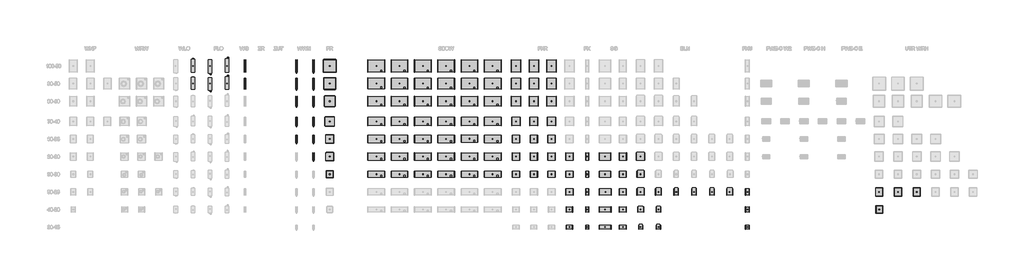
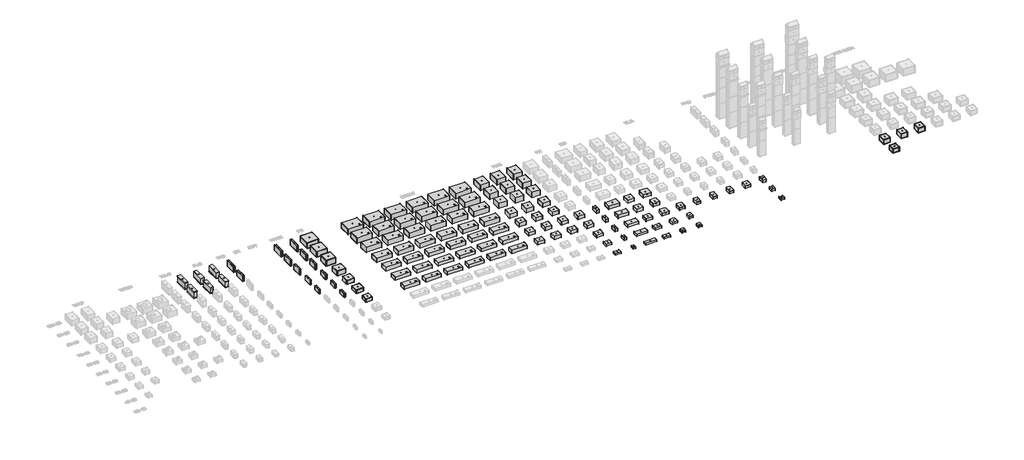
# One storey, part 2 of 9: 88 dampers, 41 proxies.
"""IFC4 building model written with IfcOpenShell, lengths in millimetres."""

from ifc_helpers import new_model, si_unit, origin, place, context, project, spatial, transform, mapped, element, save
from components import mechanical_equipment_52775468, mechanical_equipment_687dd05c, mechanical_equipment_e1f1da10, mechanical_equipment_72505fe7, mechanical_equipment_b97295ec, mechanical_equipment_a5b9c556, eln_30_15_3_45ee2382, eln_40_20_12_62cbda26, eln_40_20_6_547116ec, eln_50_25_12_b576d61d, eln_50_25_22_5_e6b17856, eln_50_25_3_0f494fae, eln_50_30_22_5_5433b532, eln_60_30_30_34ca2f9a, pr_100_50_d5668ea5, pr_50_30_9a198d9c, pr_60_30_fce1e4e2, pr_60_35_5a58c514, pr_70_40_7cd3e959, pr_80_50_171bdde4, pr_90_50_53d76877, wlo_100_50_09f97fd3, wlo_90_50_9a9a7130, wwn_100_50_2_a8e9ff89, wwn_60_30_2_c555eadd, wwn_60_35_2_a002b3c5, wwn_70_40_2_35d09b2a, wwn_80_50_2_b14858ec, wwn_90_50_2_74f086dd, damper_3e07a3b1, damper_73c1a2b8, damper_cb683c6c, damper_4910c77a, damper_2234db04, damper_d8eb1558, damper_79e00e70, damper_4dbe8409, damper_581b1da7, damper_6524d4ae, damper_9ce763fa, damper_6f91f600, damper_7f4344f7, damper_deddc22d, damper_9494ee7d, damper_7db6d74d, damper_272f7c6b, damper_729cf8fa, damper_902c86e1, damper_4f7fa12c, damper_6eec61e3, damper_dfc493b6, damper_105bf92a, damper_05f9109e, fk_30_15_0ff2b426, fk_40_20_84f0d2ef, fk_50_25_1d13ae3f, fk_50_30_b05a340d, fk_60_30_f3dd4c19, fku_30_15_48607b87, fku_40_20_ee278247, fku_50_25_6c8950d9, sg_30_15_9fe6578c, sg_30_15_6_af9fe228, sg_40_20_bcf9c2c2, sg_40_20_6_3dc7d298, sg_50_25_c6de3e1b, sg_50_25_6_c3226699, sg_50_30_2e38eed7, sg_50_30_6_3feef5d5, sg_60_30_53cb04a9, sg_60_30_6_74d84c29, wg_100_50_6149abaa, wg_90_50_df9ed7cd

model = new_model("IFC4")

# Units and contexts
model_context = context("Model", 3, world=origin())
ifc_project = project(units=[si_unit("LENGTHUNIT", "METRE", prefix="MILLI")], contexts=[model_context])

# Site, building, storey
site = spatial("IfcSite", under=ifc_project)
building = spatial("IfcBuilding", under=site)
storey = spatial("IfcBuildingStorey", under=building, Name="KORF_Уровень 1", Elevation=0.0)

# Proxies
placement = place(None, origin())
mechanical_equipment_shape = mechanical_equipment_52775468(model_context)
element("IfcBuildingElementProxy", 1, Name="KORF_Воздухоохладитель_Фреоновый_FLO_Левый : FLO 90-50", ObjectType="KORF_Воздухоохладитель_Фреоновый_FLO_Левый : FLO 90-50", at=placement, inside=storey, context=model_context, shape_type="MappedRepresentation", body=[
    mapped(mechanical_equipment_shape, transform((2142.0346858, -7120.5318822, 0.0), x_axis=(1.0, 0.0, 0.0), y_axis=(0.0, 1.0, 0.0), z_axis=(0.0, 0.0, 1.0))),
])
mechanical_equipment_2_shape = mechanical_equipment_687dd05c(model_context)
element("IfcBuildingElementProxy", 2, Name="KORF_Воздухоохладитель_Фреоновый_FLO_Левый : FLO 100-50", ObjectType="KORF_Воздухоохладитель_Фреоновый_FLO_Левый : FLO 100-50", at=placement, inside=storey, context=model_context, shape_type="MappedRepresentation", body=[
    mapped(mechanical_equipment_2_shape, transform((2142.0346858, -5606.5510747, 0.0), x_axis=(1.0, 0.0, 0.0), y_axis=(0.0, 1.0, 0.0), z_axis=(0.0, 0.0, 1.0))),
])
mechanical_equipment_3_shape = mechanical_equipment_e1f1da10(model_context)
element("IfcBuildingElementProxy", 3, Name="KORF_Воздухоохладитель_Фреоновый_FLO_Правый : FLO 90-50", ObjectType="KORF_Воздухоохладитель_Фреоновый_FLO_Правый : FLO 90-50", at=placement, inside=storey, context=model_context, shape_type="MappedRepresentation", body=[
    mapped(mechanical_equipment_3_shape, transform((3611.0870707, -7120.5318822, 0.0), x_axis=(1.0, 0.0, 0.0), y_axis=(0.0, 1.0, 0.0), z_axis=(0.0, 0.0, 1.0))),
])
mechanical_equipment_4_shape = mechanical_equipment_72505fe7(model_context)
element("IfcBuildingElementProxy", 4, Name="KORF_Воздухоохладитель_Фреоновый_FLO_Правый : FLO 100-50", ObjectType="KORF_Воздухоохладитель_Фреоновый_FLO_Правый : FLO 100-50", at=placement, inside=storey, context=model_context, shape_type="MappedRepresentation", body=[
    mapped(mechanical_equipment_4_shape, transform((3611.0870707, -5606.5510747, 0.0), x_axis=(1.0, 0.0, 0.0), y_axis=(0.0, 1.0, 0.0), z_axis=(0.0, 0.0, 1.0))),
])
mechanical_equipment_5_shape = mechanical_equipment_b97295ec(model_context)
element("IfcBuildingElementProxy", 5, Name="KORF_Вентилятор_UTR_WRH : UTR 40-20 WRH 22.4E", ObjectType="KORF_Вентилятор_UTR_WRH : UTR 40-20 WRH 22.4E", at=placement, inside=storey, context=model_context, shape_type="MappedRepresentation", body=[
    mapped(mechanical_equipment_5_shape, transform((59520.2696811, -17934.5318822, 0.0), x_axis=(1.0, 0.0, 0.0), y_axis=(0.0, 1.0, 0.0), z_axis=(0.0, 0.0, 1.0))),
])
element("IfcBuildingElementProxy", 6, Name="KORF_Вентилятор_UTR_WRH : UTR 40-20 WRH 22.4D", ObjectType="KORF_Вентилятор_UTR_WRH : UTR 40-20 WRH 22.4D", at=placement, inside=storey, context=model_context, shape_type="MappedRepresentation", body=[
    mapped(mechanical_equipment_5_shape, transform((59480.154522, -17934.5318822, 0.0), x_axis=(1.0, 0.0, 0.0), y_axis=(0.0, 1.0, 0.0), z_axis=(0.0, 0.0, 1.0))),
])
mechanical_equipment_6_shape = mechanical_equipment_a5b9c556(model_context)
element("IfcBuildingElementProxy", 7, Name="KORF_Вентилятор_UTR_WRH : UTR 50-25 WRH 22.4E", ObjectType="KORF_Вентилятор_UTR_WRH : UTR 50-25 WRH 22.4E", at=placement, inside=storey, context=model_context, shape_type="MappedRepresentation", body=[
    mapped(mechanical_equipment_6_shape, transform((61081.4621015, -16420.5510747, 0.0), x_axis=(1.0, 0.0, 0.0), y_axis=(0.0, 1.0, 0.0), z_axis=(0.0, 0.0, 1.0))),
])
element("IfcBuildingElementProxy", 8, Name="KORF_Вентилятор_UTR_WRH : UTR 50-25 WRH 22.4D", ObjectType="KORF_Вентилятор_UTR_WRH : UTR 50-25 WRH 22.4D", at=placement, inside=storey, context=model_context, shape_type="MappedRepresentation", body=[
    mapped(mechanical_equipment_6_shape, transform((59465.154522, -16420.5510747, 0.0), x_axis=(1.0, 0.0, 0.0), y_axis=(0.0, 1.0, 0.0), z_axis=(0.0, 0.0, 1.0))),
])
element("IfcBuildingElementProxy", 9, Name="KORF_Вентилятор_UTR_WRH : UTR 50-25 WRH 22.6D", ObjectType="KORF_Вентилятор_UTR_WRH : UTR 50-25 WRH 22.6D", at=placement, inside=storey, context=model_context, shape_type="MappedRepresentation", body=[
    mapped(mechanical_equipment_6_shape, transform((62697.7696811, -16420.5510747, 0.0), x_axis=(1.0, 0.0, 0.0), y_axis=(0.0, 1.0, 0.0), z_axis=(0.0, 0.0, 1.0))),
])
eln_30_15_3_shape = eln_30_15_3_45ee2382(model_context)
element("IfcBuildingElementProxy", 10, Name="KORF_Нагреватель_Электрический_ELN : ELN 30-15/3", ObjectType="KORF_Нагреватель_Электрический_ELN : ELN 30-15/3", at=placement, inside=storey, context=model_context, shape_type="MappedRepresentation", body=[
    mapped(eln_30_15_3_shape, transform((40632.6559873, -19448.5126897, 0.0), x_axis=(1.0, 0.0, 0.0), y_axis=(0.0, 1.0, 0.0), z_axis=(0.0, 0.0, 1.0))),
])
element("IfcBuildingElementProxy", 11, Name="KORF_Нагреватель_Электрический_ELN : ELN 30-15/4.5", ObjectType="KORF_Нагреватель_Электрический_ELN : ELN 30-15/4.5", at=placement, inside=storey, context=model_context, shape_type="MappedRepresentation", body=[
    mapped(eln_30_15_3_shape, transform((39103.3741614, -19448.5126897, 0.0), x_axis=(1.0, 0.0, 0.0), y_axis=(0.0, 1.0, 0.0), z_axis=(0.0, 0.0, 1.0))),
])
eln_40_20_12_shape = eln_40_20_12_62cbda26(model_context)
element("IfcBuildingElementProxy", 12, Name="KORF_Нагреватель_Электрический_ELN : ELN 40-20/12", ObjectType="KORF_Нагреватель_Электрический_ELN : ELN 40-20/12", at=placement, inside=storey, context=model_context, shape_type="MappedRepresentation", body=[
    mapped(eln_40_20_12_shape, transform((39028.3741614, -17934.5318822, 0.0), x_axis=(1.0, 0.0, 0.0), y_axis=(0.0, 1.0, 0.0), z_axis=(0.0, 0.0, 1.0))),
])
eln_40_20_6_shape = eln_40_20_6_547116ec(model_context)
element("IfcBuildingElementProxy", 13, Name="KORF_Нагреватель_Электрический_ELN : ELN 40-20/6", ObjectType="KORF_Нагреватель_Электрический_ELN : ELN 40-20/6", at=placement, inside=storey, context=model_context, shape_type="MappedRepresentation", body=[
    mapped(eln_40_20_6_shape, transform((40617.6559873, -17934.5318822, 0.0), x_axis=(1.0, 0.0, 0.0), y_axis=(0.0, 1.0, 0.0), z_axis=(0.0, 0.0, 1.0))),
])
eln_50_25_12_shape = eln_50_25_12_b576d61d(model_context)
element("IfcBuildingElementProxy", 14, Name="KORF_Нагреватель_Электрический_ELN : ELN 50-25/12", ObjectType="KORF_Нагреватель_Электрический_ELN : ELN 50-25/12", at=placement, inside=storey, context=model_context, shape_type="MappedRepresentation", body=[
    mapped(eln_50_25_12_shape, transform((46674.7832907, -16420.5510747, 0.0), x_axis=(1.0, 0.0, 0.0), y_axis=(0.0, 1.0, 0.0), z_axis=(0.0, 0.0, 1.0))),
])
element("IfcBuildingElementProxy", 15, Name="KORF_Нагреватель_Электрический_ELN : ELN 50-25/15", ObjectType="KORF_Нагреватель_Электрический_ELN : ELN 50-25/15", at=placement, inside=storey, context=model_context, shape_type="MappedRepresentation", body=[
    mapped(eln_50_25_12_shape, transform((40557.6559873, -16420.5510747, 0.0), x_axis=(1.0, 0.0, 0.0), y_axis=(0.0, 1.0, 0.0), z_axis=(0.0, 0.0, 1.0))),
])
eln_50_25_22_5_shape = eln_50_25_22_5_e6b17856(model_context)
element("IfcBuildingElementProxy", 16, Name="KORF_Нагреватель_Электрический_ELN : ELN 50-25/22.5", ObjectType="KORF_Нагреватель_Электрический_ELN : ELN 50-25/22.5", at=placement, inside=storey, context=model_context, shape_type="MappedRepresentation", body=[
    mapped(eln_50_25_22_5_shape, transform((38968.3741614, -16420.5510747, 0.0), x_axis=(1.0, 0.0, 0.0), y_axis=(0.0, 1.0, 0.0), z_axis=(0.0, 0.0, 1.0))),
])
eln_50_25_3_shape = eln_50_25_3_0f494fae(model_context)
element("IfcBuildingElementProxy", 17, Name="KORF_Нагреватель_Электрический_ELN : ELN 50-25/3", ObjectType="KORF_Нагреватель_Электрический_ELN : ELN 50-25/3", at=placement, inside=storey, context=model_context, shape_type="MappedRepresentation", body=[
    mapped(eln_50_25_3_shape, transform((43676.219639, -16420.5510747, 0.0), x_axis=(1.0, 0.0, 0.0), y_axis=(0.0, 1.0, 0.0), z_axis=(0.0, 0.0, 1.0))),
])
element("IfcBuildingElementProxy", 18, Name="KORF_Нагреватель_Электрический_ELN : ELN 50-25/4.5", ObjectType="KORF_Нагреватель_Электрический_ELN : ELN 50-25/4.5", at=placement, inside=storey, context=model_context, shape_type="MappedRepresentation", body=[
    mapped(eln_50_25_3_shape, transform((45205.5014648, -16420.5510747, 0.0), x_axis=(1.0, 0.0, 0.0), y_axis=(0.0, 1.0, 0.0), z_axis=(0.0, 0.0, 1.0))),
])
element("IfcBuildingElementProxy", 19, Name="KORF_Нагреватель_Электрический_ELN : ELN 50-25/7.5", ObjectType="KORF_Нагреватель_Электрический_ELN : ELN 50-25/7.5", at=placement, inside=storey, context=model_context, shape_type="MappedRepresentation", body=[
    mapped(eln_50_25_3_shape, transform((42146.9378131, -16420.5510747, 0.0), x_axis=(1.0, 0.0, 0.0), y_axis=(0.0, 1.0, 0.0), z_axis=(0.0, 0.0, 1.0))),
])
eln_50_30_22_5_shape = eln_50_30_22_5_5433b532(model_context)
element("IfcBuildingElementProxy", 20, Name="KORF_Нагреватель_Электрический_ELN : ELN 50-30/22.5", ObjectType="KORF_Нагреватель_Электрический_ELN : ELN 50-30/22.5", at=placement, inside=storey, context=model_context, shape_type="MappedRepresentation", body=[
    mapped(eln_50_30_22_5_shape, transform((38968.3741614, -14906.5702672, 0.0), x_axis=(1.0, 0.0, 0.0), y_axis=(0.0, 1.0, 0.0), z_axis=(0.0, 0.0, 1.0))),
])
eln_60_30_30_shape = eln_60_30_30_34ca2f9a(model_context)
element("IfcBuildingElementProxy", 21, Name="KORF_Нагреватель_Электрический_ELN : ELN 60-30/30", ObjectType="KORF_Нагреватель_Электрический_ELN : ELN 60-30/30", at=placement, inside=storey, context=model_context, shape_type="MappedRepresentation", body=[
    mapped(eln_60_30_30_shape, transform((38908.3741614, -13392.5894597, 0.0), x_axis=(1.0, 0.0, 0.0), y_axis=(0.0, 1.0, 0.0), z_axis=(0.0, 0.0, 1.0))),
])
pr_100_50_shape = pr_100_50_d5668ea5(model_context)
element("IfcBuildingElementProxy", 22, Name="KORF_Рекуператор_Пластинчатый_PR : PR 100-50", ObjectType="KORF_Рекуператор_Пластинчатый_PR : PR 100-50", at=placement, inside=storey, context=model_context, shape_type="MappedRepresentation", body=[
    mapped(pr_100_50_shape, transform((12020.4013805, -5606.5510747, 0.0), x_axis=(1.0, 0.0, 0.0), y_axis=(0.0, 1.0, 0.0), z_axis=(0.0, 0.0, 1.0))),
])
pr_50_30_shape = pr_50_30_9a198d9c(model_context)
element("IfcBuildingElementProxy", 23, Name="KORF_Рекуператор_Пластинчатый_PR : PR 50-30", ObjectType="KORF_Рекуператор_Пластинчатый_PR : PR 50-30", at=placement, inside=storey, context=model_context, shape_type="MappedRepresentation", body=[
    mapped(pr_50_30_shape, transform((12270.4013805, -14906.5702672, 0.0), x_axis=(1.0, 0.0, 0.0), y_axis=(0.0, 1.0, 0.0), z_axis=(0.0, 0.0, 1.0))),
])
pr_60_30_shape = pr_60_30_fce1e4e2(model_context)
element("IfcBuildingElementProxy", 24, Name="KORF_Рекуператор_Пластинчатый_PR : PR 60-30", ObjectType="KORF_Рекуператор_Пластинчатый_PR : PR 60-30", at=placement, inside=storey, context=model_context, shape_type="MappedRepresentation", body=[
    mapped(pr_60_30_shape, transform((12220.4013805, -13392.5894597, 0.0), x_axis=(1.0, 0.0, 0.0), y_axis=(0.0, 1.0, 0.0), z_axis=(0.0, 0.0, 1.0))),
])
pr_60_35_shape = pr_60_35_5a58c514(model_context)
element("IfcBuildingElementProxy", 25, Name="KORF_Рекуператор_Пластинчатый_PR : PR 60-35", ObjectType="KORF_Рекуператор_Пластинчатый_PR : PR 60-35", at=placement, inside=storey, context=model_context, shape_type="MappedRepresentation", body=[
    mapped(pr_60_35_shape, transform((12220.4013805, -11878.6086522, 0.0), x_axis=(1.0, 0.0, 0.0), y_axis=(0.0, 1.0, 0.0), z_axis=(0.0, 0.0, 1.0))),
])
pr_70_40_shape = pr_70_40_7cd3e959(model_context)
element("IfcBuildingElementProxy", 26, Name="KORF_Рекуператор_Пластинчатый_PR : PR 70-40", ObjectType="KORF_Рекуператор_Пластинчатый_PR : PR 70-40", at=placement, inside=storey, context=model_context, shape_type="MappedRepresentation", body=[
    mapped(pr_70_40_shape, transform((12170.4013805, -10364.6278447, 0.0), x_axis=(1.0, 0.0, 0.0), y_axis=(0.0, 1.0, 0.0), z_axis=(0.0, 0.0, 1.0))),
])
pr_80_50_shape = pr_80_50_171bdde4(model_context)
element("IfcBuildingElementProxy", 27, Name="KORF_Рекуператор_Пластинчатый_PR : PR 80-50", ObjectType="KORF_Рекуператор_Пластинчатый_PR : PR 80-50", at=placement, inside=storey, context=model_context, shape_type="MappedRepresentation", body=[
    mapped(pr_80_50_shape, transform((12120.4013805, -8634.5126897, 0.0), x_axis=(1.0, 0.0, 0.0), y_axis=(0.0, 1.0, 0.0), z_axis=(0.0, 0.0, 1.0))),
])
pr_90_50_shape = pr_90_50_53d76877(model_context)
element("IfcBuildingElementProxy", 28, Name="KORF_Рекуператор_Пластинчатый_PR : PR 90-50", ObjectType="KORF_Рекуператор_Пластинчатый_PR : PR 90-50", at=placement, inside=storey, context=model_context, shape_type="MappedRepresentation", body=[
    mapped(pr_90_50_shape, transform((12070.4013805, -7120.5318822, 0.0), x_axis=(1.0, 0.0, 0.0), y_axis=(0.0, 1.0, 0.0), z_axis=(0.0, 0.0, 1.0))),
])
wlo_100_50_shape = wlo_100_50_09f97fd3(model_context)
element("IfcBuildingElementProxy", 29, Name="KORF_Воздухоохладитель_Водяной_WLO_Правый : WLO 100-50", ObjectType="KORF_Воздухоохладитель_Водяной_WLO_Правый : WLO 100-50", at=placement, inside=storey, context=model_context, shape_type="MappedRepresentation", body=[
    mapped(wlo_100_50_shape, transform((667.9823008, -5606.5510747, 0.0), x_axis=(1.0, 0.0, 0.0), y_axis=(0.0, 1.0, 0.0), z_axis=(0.0, 0.0, 1.0))),
])
wlo_90_50_shape = wlo_90_50_9a9a7130(model_context)
element("IfcBuildingElementProxy", 30, Name="KORF_Воздухоохладитель_Водяной_WLO_Правый : WLO 90-50", ObjectType="KORF_Воздухоохладитель_Водяной_WLO_Правый : WLO 90-50", at=placement, inside=storey, context=model_context, shape_type="MappedRepresentation", body=[
    mapped(wlo_90_50_shape, transform((667.9823008, -7120.5318822, 0.0), x_axis=(1.0, 0.0, 0.0), y_axis=(0.0, 1.0, 0.0), z_axis=(0.0, 0.0, 1.0))),
])
wwn_100_50_2_shape = wwn_100_50_2_a8e9ff89(model_context)
element("IfcBuildingElementProxy", 31, Name="KORF_Нагреватель_Водяной_WWN : WWN 100-50/2", ObjectType="KORF_Нагреватель_Водяной_WWN : WWN 100-50/2", at=placement, inside=storey, context=model_context, shape_type="MappedRepresentation", body=[
    mapped(wwn_100_50_2_shape, transform((9640.2966106, -5606.5510747, 0.0), x_axis=(1.0, 0.0, 0.0), y_axis=(0.0, 1.0, 0.0), z_axis=(0.0, 0.0, 1.0))),
])
element("IfcBuildingElementProxy", 32, Name="KORF_Нагреватель_Водяной_WWN : WWN 100-50/3", ObjectType="KORF_Нагреватель_Водяной_WWN : WWN 100-50/3", at=placement, inside=storey, context=model_context, shape_type="MappedRepresentation", body=[
    mapped(wwn_100_50_2_shape, transform((11109.3489956, -5606.5510747, 0.0), x_axis=(1.0, 0.0, 0.0), y_axis=(0.0, 1.0, 0.0), z_axis=(0.0, 0.0, 1.0))),
])
wwn_60_30_2_shape = wwn_60_30_2_c555eadd(model_context)
element("IfcBuildingElementProxy", 33, Name="KORF_Нагреватель_Водяной_WWN : WWN 60-30/3", ObjectType="KORF_Нагреватель_Водяной_WWN : WWN 60-30/3", at=placement, inside=storey, context=model_context, shape_type="MappedRepresentation", body=[
    mapped(wwn_60_30_2_shape, transform((11109.3489956, -13392.5894597, 0.0), x_axis=(1.0, 0.0, 0.0), y_axis=(0.0, 1.0, 0.0), z_axis=(0.0, 0.0, 1.0))),
])
wwn_60_35_2_shape = wwn_60_35_2_a002b3c5(model_context)
element("IfcBuildingElementProxy", 34, Name="KORF_Нагреватель_Водяной_WWN : WWN 60-35/2", ObjectType="KORF_Нагреватель_Водяной_WWN : WWN 60-35/2", at=placement, inside=storey, context=model_context, shape_type="MappedRepresentation", body=[
    mapped(wwn_60_35_2_shape, transform((9640.2966106, -11878.6086522, 0.0), x_axis=(1.0, 0.0, 0.0), y_axis=(0.0, 1.0, 0.0), z_axis=(0.0, 0.0, 1.0))),
])
element("IfcBuildingElementProxy", 35, Name="KORF_Нагреватель_Водяной_WWN : WWN 60-35/3", ObjectType="KORF_Нагреватель_Водяной_WWN : WWN 60-35/3", at=placement, inside=storey, context=model_context, shape_type="MappedRepresentation", body=[
    mapped(wwn_60_35_2_shape, transform((11109.3489956, -11878.6086522, 0.0), x_axis=(1.0, 0.0, 0.0), y_axis=(0.0, 1.0, 0.0), z_axis=(0.0, 0.0, 1.0))),
])
wwn_70_40_2_shape = wwn_70_40_2_35d09b2a(model_context)
element("IfcBuildingElementProxy", 36, Name="KORF_Нагреватель_Водяной_WWN : WWN 70-40/2", ObjectType="KORF_Нагреватель_Водяной_WWN : WWN 70-40/2", at=placement, inside=storey, context=model_context, shape_type="MappedRepresentation", body=[
    mapped(wwn_70_40_2_shape, transform((9640.2966106, -10364.6278447, 0.0), x_axis=(1.0, 0.0, 0.0), y_axis=(0.0, 1.0, 0.0), z_axis=(0.0, 0.0, 1.0))),
])
element("IfcBuildingElementProxy", 37, Name="KORF_Нагреватель_Водяной_WWN : WWN 70-40/3", ObjectType="KORF_Нагреватель_Водяной_WWN : WWN 70-40/3", at=placement, inside=storey, context=model_context, shape_type="MappedRepresentation", body=[
    mapped(wwn_70_40_2_shape, transform((11109.3489956, -10364.6278447, 0.0), x_axis=(1.0, 0.0, 0.0), y_axis=(0.0, 1.0, 0.0), z_axis=(0.0, 0.0, 1.0))),
])
wwn_80_50_2_shape = wwn_80_50_2_b14858ec(model_context)
element("IfcBuildingElementProxy", 38, Name="KORF_Нагреватель_Водяной_WWN : WWN 80-50/2", ObjectType="KORF_Нагреватель_Водяной_WWN : WWN 80-50/2", at=placement, inside=storey, context=model_context, shape_type="MappedRepresentation", body=[
    mapped(wwn_80_50_2_shape, transform((9640.2966106, -8634.5126897, 0.0), x_axis=(1.0, 0.0, 0.0), y_axis=(0.0, 1.0, 0.0), z_axis=(0.0, 0.0, 1.0))),
])
element("IfcBuildingElementProxy", 39, Name="KORF_Нагреватель_Водяной_WWN : WWN 80-50/3", ObjectType="KORF_Нагреватель_Водяной_WWN : WWN 80-50/3", at=placement, inside=storey, context=model_context, shape_type="MappedRepresentation", body=[
    mapped(wwn_80_50_2_shape, transform((11109.3489956, -8634.5126897, 0.0), x_axis=(1.0, 0.0, 0.0), y_axis=(0.0, 1.0, 0.0), z_axis=(0.0, 0.0, 1.0))),
])
wwn_90_50_2_shape = wwn_90_50_2_74f086dd(model_context)
element("IfcBuildingElementProxy", 40, Name="KORF_Нагреватель_Водяной_WWN : WWN 90-50/2", ObjectType="KORF_Нагреватель_Водяной_WWN : WWN 90-50/2", at=placement, inside=storey, context=model_context, shape_type="MappedRepresentation", body=[
    mapped(wwn_90_50_2_shape, transform((9640.2966106, -7120.5318822, 0.0), x_axis=(1.0, 0.0, 0.0), y_axis=(0.0, 1.0, 0.0), z_axis=(0.0, 0.0, 1.0))),
])
element("IfcBuildingElementProxy", 41, Name="KORF_Нагреватель_Водяной_WWN : WWN 90-50/3", ObjectType="KORF_Нагреватель_Водяной_WWN : WWN 90-50/3", at=placement, inside=storey, context=model_context, shape_type="MappedRepresentation", body=[
    mapped(wwn_90_50_2_shape, transform((11109.3489956, -7120.5318822, 0.0), x_axis=(1.0, 0.0, 0.0), y_axis=(0.0, 1.0, 0.0), z_axis=(0.0, 0.0, 1.0))),
])

# Dampers
damper_shape = damper_3e07a3b1(model_context)
element("IfcDamper", 42, ObjectType="KORF_Секция бактерицидной обработки воздуха_SBOW : SBOW 50-30/174", at=placement, inside=storey, context=model_context, shape_type="MappedRepresentation", body=[
    mapped(damper_shape, transform((21858.1736044, -14906.5702672, 0.0), x_axis=(1.0, 0.0, 0.0), y_axis=(0.0, 1.0, 0.0), z_axis=(0.0, 0.0, 1.0))),
])
element("IfcDamper", 43, ObjectType="KORF_Секция бактерицидной обработки воздуха_SBOW : SBOW 50-30/111", at=placement, inside=storey, context=model_context, shape_type="MappedRepresentation", body=[
    mapped(damper_shape, transform((19858.4013805, -14906.5702672, 0.0), x_axis=(1.0, 0.0, 0.0), y_axis=(0.0, 1.0, 0.0), z_axis=(0.0, 0.0, 1.0))),
])
element("IfcDamper", 44, ObjectType="KORF_Секция бактерицидной обработки воздуха_SBOW : SBOW 50-30/79", at=placement, inside=storey, context=model_context, shape_type="MappedRepresentation", body=[
    mapped(damper_shape, transform((17858.4013805, -14906.5702672, 0.0), x_axis=(1.0, 0.0, 0.0), y_axis=(0.0, 1.0, 0.0), z_axis=(0.0, 0.0, 1.0))),
])
element("IfcDamper", 45, ObjectType="KORF_Секция бактерицидной обработки воздуха_SBOW : SBOW 50-30/47", at=placement, inside=storey, context=model_context, shape_type="MappedRepresentation", body=[
    mapped(damper_shape, transform((15858.4013805, -14906.5702672, 0.0), x_axis=(1.0, 0.0, 0.0), y_axis=(0.0, 1.0, 0.0), z_axis=(0.0, 0.0, 1.0))),
])
damper_2_shape = damper_73c1a2b8(model_context)
element("IfcDamper", 46, ObjectType="KORF_Секция бактерицидной обработки воздуха_SBOW : SBOW 60-30/190", at=placement, inside=storey, context=model_context, shape_type="MappedRepresentation", body=[
    mapped(damper_2_shape, transform((21858.1736044, -13392.5894597, 0.0), x_axis=(1.0, 0.0, 0.0), y_axis=(0.0, 1.0, 0.0), z_axis=(0.0, 0.0, 1.0))),
])
element("IfcDamper", 47, ObjectType="KORF_Секция бактерицидной обработки воздуха_SBOW : SBOW 60-30/127", at=placement, inside=storey, context=model_context, shape_type="MappedRepresentation", body=[
    mapped(damper_2_shape, transform((19858.4013805, -13392.5894597, 0.0), x_axis=(1.0, 0.0, 0.0), y_axis=(0.0, 1.0, 0.0), z_axis=(0.0, 0.0, 1.0))),
])
element("IfcDamper", 48, ObjectType="KORF_Секция бактерицидной обработки воздуха_SBOW : SBOW 60-30/79", at=placement, inside=storey, context=model_context, shape_type="MappedRepresentation", body=[
    mapped(damper_2_shape, transform((17858.4013805, -13392.5894597, 0.0), x_axis=(1.0, 0.0, 0.0), y_axis=(0.0, 1.0, 0.0), z_axis=(0.0, 0.0, 1.0))),
])
element("IfcDamper", 49, ObjectType="KORF_Секция бактерицидной обработки воздуха_SBOW : SBOW 60-30/47", at=placement, inside=storey, context=model_context, shape_type="MappedRepresentation", body=[
    mapped(damper_2_shape, transform((15858.4013805, -13392.5894597, 0.0), x_axis=(1.0, 0.0, 0.0), y_axis=(0.0, 1.0, 0.0), z_axis=(0.0, 0.0, 1.0))),
])
damper_3_shape = damper_cb683c6c(model_context)
element("IfcDamper", 50, ObjectType="KORF_Секция бактерицидной обработки воздуха_SBOW : SBOW 60-35/222", at=placement, inside=storey, context=model_context, shape_type="MappedRepresentation", body=[
    mapped(damper_3_shape, transform((21858.1736044, -11878.6086522, 0.0), x_axis=(1.0, 0.0, 0.0), y_axis=(0.0, 1.0, 0.0), z_axis=(0.0, 0.0, 1.0))),
])
element("IfcDamper", 51, ObjectType="KORF_Секция бактерицидной обработки воздуха_SBOW : SBOW 60-35/143", at=placement, inside=storey, context=model_context, shape_type="MappedRepresentation", body=[
    mapped(damper_3_shape, transform((19858.4013805, -11878.6086522, 0.0), x_axis=(1.0, 0.0, 0.0), y_axis=(0.0, 1.0, 0.0), z_axis=(0.0, 0.0, 1.0))),
])
element("IfcDamper", 52, ObjectType="KORF_Секция бактерицидной обработки воздуха_SBOW : SBOW 60-35/95", at=placement, inside=storey, context=model_context, shape_type="MappedRepresentation", body=[
    mapped(damper_3_shape, transform((17858.4013805, -11878.6086522, 0.0), x_axis=(1.0, 0.0, 0.0), y_axis=(0.0, 1.0, 0.0), z_axis=(0.0, 0.0, 1.0))),
])
element("IfcDamper", 53, ObjectType="KORF_Секция бактерицидной обработки воздуха_SBOW : SBOW 60-35/63", at=placement, inside=storey, context=model_context, shape_type="MappedRepresentation", body=[
    mapped(damper_3_shape, transform((15858.4013805, -11878.6086522, 0.0), x_axis=(1.0, 0.0, 0.0), y_axis=(0.0, 1.0, 0.0), z_axis=(0.0, 0.0, 1.0))),
])
damper_4_shape = damper_4910c77a(model_context)
element("IfcDamper", 54, ObjectType="KORF_Секция бактерицидной обработки воздуха_SBOW : SBOW 70-40/270", at=placement, inside=storey, context=model_context, shape_type="MappedRepresentation", body=[
    mapped(damper_4_shape, transform((21858.1736044, -10364.6278447, 0.0), x_axis=(1.0, 0.0, 0.0), y_axis=(0.0, 1.0, 0.0), z_axis=(0.0, 0.0, 1.0))),
])
element("IfcDamper", 55, ObjectType="KORF_Секция бактерицидной обработки воздуха_SBOW : SBOW 70-40/174", at=placement, inside=storey, context=model_context, shape_type="MappedRepresentation", body=[
    mapped(damper_4_shape, transform((19858.4013805, -10364.6278447, 0.0), x_axis=(1.0, 0.0, 0.0), y_axis=(0.0, 1.0, 0.0), z_axis=(0.0, 0.0, 1.0))),
])
element("IfcDamper", 56, ObjectType="KORF_Секция бактерицидной обработки воздуха_SBOW : SBOW 70-40/111", at=placement, inside=storey, context=model_context, shape_type="MappedRepresentation", body=[
    mapped(damper_4_shape, transform((17858.4013805, -10364.6278447, 0.0), x_axis=(1.0, 0.0, 0.0), y_axis=(0.0, 1.0, 0.0), z_axis=(0.0, 0.0, 1.0))),
])
element("IfcDamper", 57, ObjectType="KORF_Секция бактерицидной обработки воздуха_SBOW : SBOW 70-40/63", at=placement, inside=storey, context=model_context, shape_type="MappedRepresentation", body=[
    mapped(damper_4_shape, transform((15858.4013805, -10364.6278447, 0.0), x_axis=(1.0, 0.0, 0.0), y_axis=(0.0, 1.0, 0.0), z_axis=(0.0, 0.0, 1.0))),
])
damper_5_shape = damper_2234db04(model_context)
element("IfcDamper", 58, ObjectType="KORF_Секция бактерицидной обработки воздуха_SBOW : SBOW 80-50/302", at=placement, inside=storey, context=model_context, shape_type="MappedRepresentation", body=[
    mapped(damper_5_shape, transform((21858.1736044, -8634.5126897, 0.0), x_axis=(1.0, 0.0, 0.0), y_axis=(0.0, 1.0, 0.0), z_axis=(0.0, 0.0, 1.0))),
])
element("IfcDamper", 59, ObjectType="KORF_Секция бактерицидной обработки воздуха_SBOW : SBOW 80-50/206", at=placement, inside=storey, context=model_context, shape_type="MappedRepresentation", body=[
    mapped(damper_5_shape, transform((19858.4013805, -8634.5126897, 0.0), x_axis=(1.0, 0.0, 0.0), y_axis=(0.0, 1.0, 0.0), z_axis=(0.0, 0.0, 1.0))),
])
element("IfcDamper", 60, ObjectType="KORF_Секция бактерицидной обработки воздуха_SBOW : SBOW 80-50/127", at=placement, inside=storey, context=model_context, shape_type="MappedRepresentation", body=[
    mapped(damper_5_shape, transform((17858.4013805, -8634.5126897, 0.0), x_axis=(1.0, 0.0, 0.0), y_axis=(0.0, 1.0, 0.0), z_axis=(0.0, 0.0, 1.0))),
])
element("IfcDamper", 61, ObjectType="KORF_Секция бактерицидной обработки воздуха_SBOW : SBOW 80-50/79", at=placement, inside=storey, context=model_context, shape_type="MappedRepresentation", body=[
    mapped(damper_5_shape, transform((15858.4013805, -8634.5126897, 0.0), x_axis=(1.0, 0.0, 0.0), y_axis=(0.0, 1.0, 0.0), z_axis=(0.0, 0.0, 1.0))),
])
damper_6_shape = damper_d8eb1558(model_context)
element("IfcDamper", 62, ObjectType="KORF_Секция бактерицидной обработки воздуха_SBOW : SBOW 90-50/365", at=placement, inside=storey, context=model_context, shape_type="MappedRepresentation", body=[
    mapped(damper_6_shape, transform((21858.1736044, -7120.5318822, 0.0), x_axis=(1.0, 0.0, 0.0), y_axis=(0.0, 1.0, 0.0), z_axis=(0.0, 0.0, 1.0))),
])
element("IfcDamper", 63, ObjectType="KORF_Секция бактерицидной обработки воздуха_SBOW : SBOW 90-50/238", at=placement, inside=storey, context=model_context, shape_type="MappedRepresentation", body=[
    mapped(damper_6_shape, transform((19858.4013805, -7120.5318822, 0.0), x_axis=(1.0, 0.0, 0.0), y_axis=(0.0, 1.0, 0.0), z_axis=(0.0, 0.0, 1.0))),
])
element("IfcDamper", 64, ObjectType="KORF_Секция бактерицидной обработки воздуха_SBOW : SBOW 90-50/159", at=placement, inside=storey, context=model_context, shape_type="MappedRepresentation", body=[
    mapped(damper_6_shape, transform((17858.4013805, -7120.5318822, 0.0), x_axis=(1.0, 0.0, 0.0), y_axis=(0.0, 1.0, 0.0), z_axis=(0.0, 0.0, 1.0))),
])
element("IfcDamper", 65, ObjectType="KORF_Секция бактерицидной обработки воздуха_SBOW : SBOW 90-50/95", at=placement, inside=storey, context=model_context, shape_type="MappedRepresentation", body=[
    mapped(damper_6_shape, transform((15858.4013805, -7095.5318822, 0.0), x_axis=(1.0, 0.0, 0.0), y_axis=(0.0, 1.0, 0.0), z_axis=(0.0, 0.0, 1.0))),
])
damper_7_shape = damper_79e00e70(model_context)
element("IfcDamper", 66, ObjectType="KORF_Секция бактерицидной обработки воздуха_SBOW : SBOW 100-50/397", at=placement, inside=storey, context=model_context, shape_type="MappedRepresentation", body=[
    mapped(damper_7_shape, transform((21858.1736044, -5606.5510747, 0.0), x_axis=(1.0, 0.0, 0.0), y_axis=(0.0, 1.0, 0.0), z_axis=(0.0, 0.0, 1.0))),
])
element("IfcDamper", 67, ObjectType="KORF_Секция бактерицидной обработки воздуха_SBOW : SBOW 100-50/270", at=placement, inside=storey, context=model_context, shape_type="MappedRepresentation", body=[
    mapped(damper_7_shape, transform((19858.4013805, -5606.5510747, 0.0), x_axis=(1.0, 0.0, 0.0), y_axis=(0.0, 1.0, 0.0), z_axis=(0.0, 0.0, 1.0))),
])
element("IfcDamper", 68, ObjectType="KORF_Секция бактерицидной обработки воздуха_SBOW : SBOW 100-50/190", at=placement, inside=storey, context=model_context, shape_type="MappedRepresentation", body=[
    mapped(damper_7_shape, transform((17858.4013805, -5606.5510747, 0.0), x_axis=(1.0, 0.0, 0.0), y_axis=(0.0, 1.0, 0.0), z_axis=(0.0, 0.0, 1.0))),
])
element("IfcDamper", 69, ObjectType="KORF_Секция бактерицидной обработки воздуха_SBOW : SBOW 100-50/111", at=placement, inside=storey, context=model_context, shape_type="MappedRepresentation", body=[
    mapped(damper_7_shape, transform((15858.4013805, -5606.5510747, 0.0), x_axis=(1.0, 0.0, 0.0), y_axis=(0.0, 1.0, 0.0), z_axis=(0.0, 0.0, 1.0))),
])
element("IfcDamper", 70, ObjectType="KORF_Секция бактерицидной обработки воздуха_SBOW : SBOW 50-30/79 (36)", at=placement, inside=storey, context=model_context, shape_type="MappedRepresentation", body=[
    mapped(damper_shape, transform((25858.4013805, -14906.5702672, 0.0), x_axis=(1.0, 0.0, 0.0), y_axis=(0.0, 1.0, 0.0), z_axis=(0.0, 0.0, 1.0))),
])
element("IfcDamper", 71, ObjectType="KORF_Секция бактерицидной обработки воздуха_SBOW : SBOW 50-30/47 (36)", at=placement, inside=storey, context=model_context, shape_type="MappedRepresentation", body=[
    mapped(damper_shape, transform((23858.4013805, -14906.5702672, 0.0), x_axis=(1.0, 0.0, 0.0), y_axis=(0.0, 1.0, 0.0), z_axis=(0.0, 0.0, 1.0))),
])
element("IfcDamper", 72, ObjectType="KORF_Секция бактерицидной обработки воздуха_SBOW : SBOW 60-30/79 (36)", at=placement, inside=storey, context=model_context, shape_type="MappedRepresentation", body=[
    mapped(damper_2_shape, transform((25858.4013805, -13392.5894597, 0.0), x_axis=(1.0, 0.0, 0.0), y_axis=(0.0, 1.0, 0.0), z_axis=(0.0, 0.0, 1.0))),
])
element("IfcDamper", 73, ObjectType="KORF_Секция бактерицидной обработки воздуха_SBOW : SBOW 60-30/47 (36)", at=placement, inside=storey, context=model_context, shape_type="MappedRepresentation", body=[
    mapped(damper_2_shape, transform((23858.4013805, -13392.5894597, 0.0), x_axis=(1.0, 0.0, 0.0), y_axis=(0.0, 1.0, 0.0), z_axis=(0.0, 0.0, 1.0))),
])
element("IfcDamper", 74, ObjectType="KORF_Секция бактерицидной обработки воздуха_SBOW : SBOW 60-35/95 (36)", at=placement, inside=storey, context=model_context, shape_type="MappedRepresentation", body=[
    mapped(damper_3_shape, transform((25858.4013805, -11878.6086522, 0.0), x_axis=(1.0, 0.0, 0.0), y_axis=(0.0, 1.0, 0.0), z_axis=(0.0, 0.0, 1.0))),
])
element("IfcDamper", 75, ObjectType="KORF_Секция бактерицидной обработки воздуха_SBOW : SBOW 60-35/63 (36)", at=placement, inside=storey, context=model_context, shape_type="MappedRepresentation", body=[
    mapped(damper_3_shape, transform((23858.4013805, -11853.6086522, 0.0), x_axis=(1.0, 0.0, 0.0), y_axis=(0.0, 1.0, 0.0), z_axis=(0.0, 0.0, 1.0))),
])
element("IfcDamper", 76, ObjectType="KORF_Секция бактерицидной обработки воздуха_SBOW : SBOW 70-40/111 (36)", at=placement, inside=storey, context=model_context, shape_type="MappedRepresentation", body=[
    mapped(damper_4_shape, transform((25858.4013805, -10364.6278447, 0.0), x_axis=(1.0, 0.0, 0.0), y_axis=(0.0, 1.0, 0.0), z_axis=(0.0, 0.0, 1.0))),
])
element("IfcDamper", 77, ObjectType="KORF_Секция бактерицидной обработки воздуха_SBOW : SBOW 70-40/63 (36)", at=placement, inside=storey, context=model_context, shape_type="MappedRepresentation", body=[
    mapped(damper_4_shape, transform((23858.4013805, -10364.6278447, 0.0), x_axis=(1.0, 0.0, 0.0), y_axis=(0.0, 1.0, 0.0), z_axis=(0.0, 0.0, 1.0))),
])
element("IfcDamper", 78, ObjectType="KORF_Секция бактерицидной обработки воздуха_SBOW : SBOW 80-50/127 (36)", at=placement, inside=storey, context=model_context, shape_type="MappedRepresentation", body=[
    mapped(damper_5_shape, transform((25858.4013805, -8634.5126897, 0.0), x_axis=(1.0, 0.0, 0.0), y_axis=(0.0, 1.0, 0.0), z_axis=(0.0, 0.0, 1.0))),
])
element("IfcDamper", 79, ObjectType="KORF_Секция бактерицидной обработки воздуха_SBOW : SBOW 80-50/79 (36)", at=placement, inside=storey, context=model_context, shape_type="MappedRepresentation", body=[
    mapped(damper_5_shape, transform((23858.4013805, -8634.5126897, 0.0), x_axis=(1.0, 0.0, 0.0), y_axis=(0.0, 1.0, 0.0), z_axis=(0.0, 0.0, 1.0))),
])
element("IfcDamper", 80, ObjectType="KORF_Секция бактерицидной обработки воздуха_SBOW : SBOW 90-50/159 (36)", at=placement, inside=storey, context=model_context, shape_type="MappedRepresentation", body=[
    mapped(damper_6_shape, transform((25858.4013805, -7120.5318822, 0.0), x_axis=(1.0, 0.0, 0.0), y_axis=(0.0, 1.0, 0.0), z_axis=(0.0, 0.0, 1.0))),
])
element("IfcDamper", 81, ObjectType="KORF_Секция бактерицидной обработки воздуха_SBOW : SBOW 90-50/95 (36)", at=placement, inside=storey, context=model_context, shape_type="MappedRepresentation", body=[
    mapped(damper_6_shape, transform((23858.4013805, -7120.5318822, 0.0), x_axis=(1.0, 0.0, 0.0), y_axis=(0.0, 1.0, 0.0), z_axis=(0.0, 0.0, 1.0))),
])
element("IfcDamper", 82, ObjectType="KORF_Секция бактерицидной обработки воздуха_SBOW : SBOW 100-50/190 (36)", at=placement, inside=storey, context=model_context, shape_type="MappedRepresentation", body=[
    mapped(damper_7_shape, transform((25858.4013805, -5606.5510747, 0.0), x_axis=(1.0, 0.0, 0.0), y_axis=(0.0, 1.0, 0.0), z_axis=(0.0, 0.0, 1.0))),
])
element("IfcDamper", 83, ObjectType="KORF_Секция бактерицидной обработки воздуха_SBOW : SBOW 100-50/111 (36)", at=placement, inside=storey, context=model_context, shape_type="MappedRepresentation", body=[
    mapped(damper_7_shape, transform((23858.4013805, -5606.5510747, 0.0), x_axis=(1.0, 0.0, 0.0), y_axis=(0.0, 1.0, 0.0), z_axis=(0.0, 0.0, 1.0))),
])
damper_8_shape = damper_4dbe8409(model_context)
element("IfcDamper", 84, ObjectType="KORF_Фильтр_Карманный_FKR : FKR 50-30  EU3", at=placement, inside=storey, context=model_context, shape_type="MappedRepresentation", body=[
    mapped(damper_8_shape, transform((28258.4013805, -14906.5702672, 0.0), x_axis=(1.0, 0.0, 0.0), y_axis=(0.0, 1.0, 0.0), z_axis=(0.0, 0.0, 1.0))),
])
damper_9_shape = damper_581b1da7(model_context)
element("IfcDamper", 85, ObjectType="KORF_Фильтр_Карманный_FKR : FKR 60-30  EU3", at=placement, inside=storey, context=model_context, shape_type="MappedRepresentation", body=[
    mapped(damper_9_shape, transform((28258.4013805, -13392.5894597, 0.0), x_axis=(1.0, 0.0, 0.0), y_axis=(0.0, 1.0, 0.0), z_axis=(0.0, 0.0, 1.0))),
])
damper_10_shape = damper_6524d4ae(model_context)
element("IfcDamper", 86, ObjectType="KORF_Фильтр_Карманный_FKR : FKR 60-35  EU3", at=placement, inside=storey, context=model_context, shape_type="MappedRepresentation", body=[
    mapped(damper_10_shape, transform((28258.4013805, -11878.6086522, 0.0), x_axis=(1.0, 0.0, 0.0), y_axis=(0.0, 1.0, 0.0), z_axis=(0.0, 0.0, 1.0))),
])
damper_11_shape = damper_9ce763fa(model_context)
element("IfcDamper", 87, ObjectType="KORF_Фильтр_Карманный_FKR : FKR 70-40  EU3", at=placement, inside=storey, context=model_context, shape_type="MappedRepresentation", body=[
    mapped(damper_11_shape, transform((28218.4013805, -10364.6278447, 0.0), x_axis=(1.0, 0.0, 0.0), y_axis=(0.0, 1.0, 0.0), z_axis=(0.0, 0.0, 1.0))),
])
damper_12_shape = damper_6f91f600(model_context)
element("IfcDamper", 88, ObjectType="KORF_Фильтр_Карманный_FKR : FKR 80-50  EU3", at=placement, inside=storey, context=model_context, shape_type="MappedRepresentation", body=[
    mapped(damper_12_shape, transform((28178.4013805, -8634.5126897, 0.0), x_axis=(1.0, 0.0, 0.0), y_axis=(0.0, 1.0, 0.0), z_axis=(0.0, 0.0, 1.0))),
])
damper_13_shape = damper_7f4344f7(model_context)
element("IfcDamper", 89, ObjectType="KORF_Фильтр_Карманный_FKR : FKR 90-50  EU3", at=placement, inside=storey, context=model_context, shape_type="MappedRepresentation", body=[
    mapped(damper_13_shape, transform((28168.4013805, -7120.5318822, 0.0), x_axis=(1.0, 0.0, 0.0), y_axis=(0.0, 1.0, 0.0), z_axis=(0.0, 0.0, 1.0))),
])
damper_14_shape = damper_deddc22d(model_context)
element("IfcDamper", 90, ObjectType="KORF_Фильтр_Карманный_FKR : FKR 100-50  EU3", at=placement, inside=storey, context=model_context, shape_type="MappedRepresentation", body=[
    mapped(damper_14_shape, transform((28168.4013805, -5606.5510747, 0.0), x_axis=(1.0, 0.0, 0.0), y_axis=(0.0, 1.0, 0.0), z_axis=(0.0, 0.0, 1.0))),
])
damper_15_shape = damper_9494ee7d(model_context)
element("IfcDamper", 91, ObjectType="KORF_Фильтр_Карманный_FKR : FKR 50-30  EU5", at=placement, inside=storey, context=model_context, shape_type="MappedRepresentation", body=[
    mapped(damper_15_shape, transform((29787.6832064, -14906.5702672, 0.0), x_axis=(1.0, 0.0, 0.0), y_axis=(0.0, 1.0, 0.0), z_axis=(0.0, 0.0, 1.0))),
])
damper_16_shape = damper_7db6d74d(model_context)
element("IfcDamper", 92, ObjectType="KORF_Фильтр_Карманный_FKR : FKR 60-30  EU5", at=placement, inside=storey, context=model_context, shape_type="MappedRepresentation", body=[
    mapped(damper_16_shape, transform((29787.6832064, -13392.5894597, 0.0), x_axis=(1.0, 0.0, 0.0), y_axis=(0.0, 1.0, 0.0), z_axis=(0.0, 0.0, 1.0))),
])
damper_17_shape = damper_272f7c6b(model_context)
element("IfcDamper", 93, ObjectType="KORF_Фильтр_Карманный_FKR : FKR 60-35  EU5", at=placement, inside=storey, context=model_context, shape_type="MappedRepresentation", body=[
    mapped(damper_17_shape, transform((29787.6832064, -11878.6086522, 0.0), x_axis=(1.0, 0.0, 0.0), y_axis=(0.0, 1.0, 0.0), z_axis=(0.0, 0.0, 1.0))),
])
damper_18_shape = damper_729cf8fa(model_context)
element("IfcDamper", 94, ObjectType="KORF_Фильтр_Карманный_FKR : FKR 70-40  EU5", at=placement, inside=storey, context=model_context, shape_type="MappedRepresentation", body=[
    mapped(damper_18_shape, transform((29747.6832064, -10364.6278447, 0.0), x_axis=(1.0, 0.0, 0.0), y_axis=(0.0, 1.0, 0.0), z_axis=(0.0, 0.0, 1.0))),
])
damper_19_shape = damper_902c86e1(model_context)
element("IfcDamper", 95, ObjectType="KORF_Фильтр_Карманный_FKR : FKR 80-50  EU5", at=placement, inside=storey, context=model_context, shape_type="MappedRepresentation", body=[
    mapped(damper_19_shape, transform((29707.6832064, -8634.5126897, 0.0), x_axis=(1.0, 0.0, 0.0), y_axis=(0.0, 1.0, 0.0), z_axis=(0.0, 0.0, 1.0))),
])
damper_20_shape = damper_4f7fa12c(model_context)
element("IfcDamper", 96, ObjectType="KORF_Фильтр_Карманный_FKR : FKR 90-50  EU5", at=placement, inside=storey, context=model_context, shape_type="MappedRepresentation", body=[
    mapped(damper_20_shape, transform((29697.6832064, -7120.5318822, 0.0), x_axis=(1.0, 0.0, 0.0), y_axis=(0.0, 1.0, 0.0), z_axis=(0.0, 0.0, 1.0))),
])
damper_21_shape = damper_6eec61e3(model_context)
element("IfcDamper", 97, ObjectType="KORF_Фильтр_Карманный_FKR : FKR 100-50  EU5", at=placement, inside=storey, context=model_context, shape_type="MappedRepresentation", body=[
    mapped(damper_21_shape, transform((29697.6832064, -5606.5510747, 0.0), x_axis=(1.0, 0.0, 0.0), y_axis=(0.0, 1.0, 0.0), z_axis=(0.0, 0.0, 1.0))),
])
element("IfcDamper", 98, ObjectType="KORF_Фильтр_Карманный_FKR : FKR 50-30  EU7", at=placement, inside=storey, context=model_context, shape_type="MappedRepresentation", body=[
    mapped(damper_15_shape, transform((31316.9650322, -14906.5702672, 0.0), x_axis=(1.0, 0.0, 0.0), y_axis=(0.0, 1.0, 0.0), z_axis=(0.0, 0.0, 1.0))),
])
element("IfcDamper", 99, ObjectType="KORF_Фильтр_Карманный_FKR : FKR 60-30  EU7", at=placement, inside=storey, context=model_context, shape_type="MappedRepresentation", body=[
    mapped(damper_16_shape, transform((31316.9650322, -13392.5894597, 0.0), x_axis=(1.0, 0.0, 0.0), y_axis=(0.0, 1.0, 0.0), z_axis=(0.0, 0.0, 1.0))),
])
element("IfcDamper", 100, ObjectType="KORF_Фильтр_Карманный_FKR : FKR 60-35  EU7", at=placement, inside=storey, context=model_context, shape_type="MappedRepresentation", body=[
    mapped(damper_17_shape, transform((31316.9650322, -11878.6086522, 0.0), x_axis=(1.0, 0.0, 0.0), y_axis=(0.0, 1.0, 0.0), z_axis=(0.0, 0.0, 1.0))),
])
element("IfcDamper", 101, ObjectType="KORF_Фильтр_Карманный_FKR : FKR 70-40  EU7", at=placement, inside=storey, context=model_context, shape_type="MappedRepresentation", body=[
    mapped(damper_18_shape, transform((31276.9650322, -10364.6278447, 0.0), x_axis=(1.0, 0.0, 0.0), y_axis=(0.0, 1.0, 0.0), z_axis=(0.0, 0.0, 1.0))),
])
element("IfcDamper", 102, ObjectType="KORF_Фильтр_Карманный_FKR : FKR 80-50  EU7", at=placement, inside=storey, context=model_context, shape_type="MappedRepresentation", body=[
    mapped(damper_19_shape, transform((31236.9650322, -8634.5126897, 0.0), x_axis=(1.0, 0.0, 0.0), y_axis=(0.0, 1.0, 0.0), z_axis=(0.0, 0.0, 1.0))),
])
element("IfcDamper", 103, ObjectType="KORF_Фильтр_Карманный_FKR : FKR 90-50  EU7", at=placement, inside=storey, context=model_context, shape_type="MappedRepresentation", body=[
    mapped(damper_20_shape, transform((31226.9650322, -7120.5318822, 0.0), x_axis=(1.0, 0.0, 0.0), y_axis=(0.0, 1.0, 0.0), z_axis=(0.0, 0.0, 1.0))),
])
element("IfcDamper", 104, ObjectType="KORF_Фильтр_Карманный_FKR : FKR 100-50  EU7", at=placement, inside=storey, context=model_context, shape_type="MappedRepresentation", body=[
    mapped(damper_21_shape, transform((31226.9650322, -5606.5510747, 0.0), x_axis=(1.0, 0.0, 0.0), y_axis=(0.0, 1.0, 0.0), z_axis=(0.0, 0.0, 1.0))),
])
damper_22_shape = damper_dfc493b6(model_context)
element("IfcDamper", 105, ObjectType="KORF_Фильтр_Карманный_FKR : FKR 30-15  EU9", at=placement, inside=storey, context=model_context, shape_type="MappedRepresentation", body=[
    mapped(damper_22_shape, transform((32896.2468581, -19448.5126897, 0.0), x_axis=(1.0, 0.0, 0.0), y_axis=(0.0, 1.0, 0.0), z_axis=(0.0, 0.0, 1.0))),
])
damper_23_shape = damper_105bf92a(model_context)
element("IfcDamper", 106, ObjectType="KORF_Фильтр_Карманный_FKR : FKR 40-20  EU9", at=placement, inside=storey, context=model_context, shape_type="MappedRepresentation", body=[
    mapped(damper_23_shape, transform((32896.2468581, -17934.5318822, 0.0), x_axis=(1.0, 0.0, 0.0), y_axis=(0.0, 1.0, 0.0), z_axis=(0.0, 0.0, 1.0))),
])
damper_24_shape = damper_05f9109e(model_context)
element("IfcDamper", 107, ObjectType="KORF_Фильтр_Карманный_FKR : FKR 50-25  EU9", at=placement, inside=storey, context=model_context, shape_type="MappedRepresentation", body=[
    mapped(damper_24_shape, transform((32846.2468581, -16420.5510747, 0.0), x_axis=(1.0, 0.0, 0.0), y_axis=(0.0, 1.0, 0.0), z_axis=(0.0, 0.0, 1.0))),
])
element("IfcDamper", 108, ObjectType="KORF_Фильтр_Карманный_FKR : FKR 50-30  EU9", at=placement, inside=storey, context=model_context, shape_type="MappedRepresentation", body=[
    mapped(damper_15_shape, transform((32846.2468581, -14906.5702672, 0.0), x_axis=(1.0, 0.0, 0.0), y_axis=(0.0, 1.0, 0.0), z_axis=(0.0, 0.0, 1.0))),
])
element("IfcDamper", 109, ObjectType="KORF_Фильтр_Карманный_FKR : FKR 60-30  EU9", at=placement, inside=storey, context=model_context, shape_type="MappedRepresentation", body=[
    mapped(damper_16_shape, transform((32846.2468581, -13392.5894597, 0.0), x_axis=(1.0, 0.0, 0.0), y_axis=(0.0, 1.0, 0.0), z_axis=(0.0, 0.0, 1.0))),
])
fk_30_15_shape = fk_30_15_0ff2b426(model_context)
element("IfcDamper", 110, ObjectType="KORF_Фильтр_Кассетный_FK : FK 30-15", at=placement, inside=storey, context=model_context, shape_type="MappedRepresentation", body=[
    mapped(fk_30_15_shape, transform((34574.5286839, -19448.5126897, 0.0), x_axis=(1.0, 0.0, 0.0), y_axis=(0.0, 1.0, 0.0), z_axis=(0.0, 0.0, 1.0))),
])
fk_40_20_shape = fk_40_20_84f0d2ef(model_context)
element("IfcDamper", 111, ObjectType="KORF_Фильтр_Кассетный_FK : FK 40-20", at=placement, inside=storey, context=model_context, shape_type="MappedRepresentation", body=[
    mapped(fk_40_20_shape, transform((34574.5286839, -17934.5318822, 0.0), x_axis=(1.0, 0.0, 0.0), y_axis=(0.0, 1.0, 0.0), z_axis=(0.0, 0.0, 1.0))),
])
fk_50_25_shape = fk_50_25_1d13ae3f(model_context)
element("IfcDamper", 112, ObjectType="KORF_Фильтр_Кассетный_FK : FK 50-25", at=placement, inside=storey, context=model_context, shape_type="MappedRepresentation", body=[
    mapped(fk_50_25_shape, transform((34574.5286839, -16420.5510747, 0.0), x_axis=(1.0, 0.0, 0.0), y_axis=(0.0, 1.0, 0.0), z_axis=(0.0, 0.0, 1.0))),
])
fk_50_30_shape = fk_50_30_b05a340d(model_context)
element("IfcDamper", 113, ObjectType="KORF_Фильтр_Кассетный_FK : FK 50-30", at=placement, inside=storey, context=model_context, shape_type="MappedRepresentation", body=[
    mapped(fk_50_30_shape, transform((34574.5286839, -14906.5702672, 0.0), x_axis=(1.0, 0.0, 0.0), y_axis=(0.0, 1.0, 0.0), z_axis=(0.0, 0.0, 1.0))),
])
fk_60_30_shape = fk_60_30_f3dd4c19(model_context)
element("IfcDamper", 114, ObjectType="KORF_Фильтр_Кассетный_FK : FK 60-30", at=placement, inside=storey, context=model_context, shape_type="MappedRepresentation", body=[
    mapped(fk_60_30_shape, transform((34574.5286839, -13392.5894597, 0.0), x_axis=(1.0, 0.0, 0.0), y_axis=(0.0, 1.0, 0.0), z_axis=(0.0, 0.0, 1.0))),
])
fku_30_15_shape = fku_30_15_48607b87(model_context)
element("IfcDamper", 115, ObjectType="KORF_Фильтр_Карманный_Укороченный_FKU : FKU 30-15", at=placement, inside=storey, context=model_context, shape_type="MappedRepresentation", body=[
    mapped(fku_30_15_shape, transform((48293.5014648, -19448.5126897, 0.0), x_axis=(1.0, 0.0, 0.0), y_axis=(0.0, 1.0, 0.0), z_axis=(0.0, 0.0, 1.0))),
])
fku_40_20_shape = fku_40_20_ee278247(model_context)
element("IfcDamper", 116, ObjectType="KORF_Фильтр_Карманный_Укороченный_FKU : FKU 40-20", at=placement, inside=storey, context=model_context, shape_type="MappedRepresentation", body=[
    mapped(fku_40_20_shape, transform((48293.5014648, -17934.5318822, 0.0), x_axis=(1.0, 0.0, 0.0), y_axis=(0.0, 1.0, 0.0), z_axis=(0.0, 0.0, 1.0))),
])
fku_50_25_shape = fku_50_25_6c8950d9(model_context)
element("IfcDamper", 117, ObjectType="KORF_Фильтр_Карманный_Укороченный_FKU : FKU 50-25", at=placement, inside=storey, context=model_context, shape_type="MappedRepresentation", body=[
    mapped(fku_50_25_shape, transform((48293.5014648, -16420.5510747, 0.0), x_axis=(1.0, 0.0, 0.0), y_axis=(0.0, 1.0, 0.0), z_axis=(0.0, 0.0, 1.0))),
])
sg_30_15_shape = sg_30_15_9fe6578c(model_context)
element("IfcDamper", 118, ObjectType="KORF_Шумоглушитель_SG : SG 30-15", at=placement, inside=storey, context=model_context, shape_type="MappedRepresentation", body=[
    mapped(sg_30_15_shape, transform((35730.3105098, -19448.5126897, 0.0), x_axis=(1.0, 0.0, 0.0), y_axis=(0.0, 1.0, 0.0), z_axis=(0.0, 0.0, 1.0))),
])
sg_30_15_6_shape = sg_30_15_6_af9fe228(model_context)
element("IfcDamper", 119, ObjectType="KORF_Шумоглушитель_SG : SG 30-15/6", at=placement, inside=storey, context=model_context, shape_type="MappedRepresentation", body=[
    mapped(sg_30_15_6_shape, transform((37447.0923356, -19448.5126897, 0.0), x_axis=(1.0, 0.0, 0.0), y_axis=(0.0, 1.0, 0.0), z_axis=(0.0, 0.0, 1.0))),
])
sg_40_20_shape = sg_40_20_bcf9c2c2(model_context)
element("IfcDamper", 120, ObjectType="KORF_Шумоглушитель_SG : SG 40-20", at=placement, inside=storey, context=model_context, shape_type="MappedRepresentation", body=[
    mapped(sg_40_20_shape, transform((35730.3105098, -17934.5318822, 0.0), x_axis=(1.0, 0.0, 0.0), y_axis=(0.0, 1.0, 0.0), z_axis=(0.0, 0.0, 1.0))),
])
sg_40_20_6_shape = sg_40_20_6_3dc7d298(model_context)
element("IfcDamper", 121, ObjectType="KORF_Шумоглушитель_SG : SG 40-20 /6", at=placement, inside=storey, context=model_context, shape_type="MappedRepresentation", body=[
    mapped(sg_40_20_6_shape, transform((37447.0923356, -17934.5318822, 0.0), x_axis=(1.0, 0.0, 0.0), y_axis=(0.0, 1.0, 0.0), z_axis=(0.0, 0.0, 1.0))),
])
sg_50_25_shape = sg_50_25_c6de3e1b(model_context)
element("IfcDamper", 122, ObjectType="KORF_Шумоглушитель_SG : SG 50-25", at=placement, inside=storey, context=model_context, shape_type="MappedRepresentation", body=[
    mapped(sg_50_25_shape, transform((35742.8105098, -16420.5510747, 0.0), x_axis=(1.0, 0.0, 0.0), y_axis=(0.0, 1.0, 0.0), z_axis=(0.0, 0.0, 1.0))),
])
sg_50_25_6_shape = sg_50_25_6_c3226699(model_context)
element("IfcDamper", 123, ObjectType="KORF_Шумоглушитель_SG : SG 50-25 /6", at=placement, inside=storey, context=model_context, shape_type="MappedRepresentation", body=[
    mapped(sg_50_25_6_shape, transform((37447.0923356, -16420.5510747, 0.0), x_axis=(1.0, 0.0, 0.0), y_axis=(0.0, 1.0, 0.0), z_axis=(0.0, 0.0, 1.0))),
])
sg_50_30_shape = sg_50_30_2e38eed7(model_context)
element("IfcDamper", 124, ObjectType="KORF_Шумоглушитель_SG : SG 50-30", at=placement, inside=storey, context=model_context, shape_type="MappedRepresentation", body=[
    mapped(sg_50_30_shape, transform((35717.8105098, -14906.5702672, 0.0), x_axis=(1.0, 0.0, 0.0), y_axis=(0.0, 1.0, 0.0), z_axis=(0.0, 0.0, 1.0))),
])
sg_50_30_6_shape = sg_50_30_6_3feef5d5(model_context)
element("IfcDamper", 125, ObjectType="KORF_Шумоглушитель_SG : SG 50-30 /6", at=placement, inside=storey, context=model_context, shape_type="MappedRepresentation", body=[
    mapped(sg_50_30_6_shape, transform((37447.0923356, -14906.5702672, 0.0), x_axis=(1.0, 0.0, 0.0), y_axis=(0.0, 1.0, 0.0), z_axis=(0.0, 0.0, 1.0))),
])
sg_60_30_shape = sg_60_30_53cb04a9(model_context)
element("IfcDamper", 126, ObjectType="KORF_Шумоглушитель_SG : SG 60-30", at=placement, inside=storey, context=model_context, shape_type="MappedRepresentation", body=[
    mapped(sg_60_30_shape, transform((35717.8105098, -13392.5894597, 0.0), x_axis=(1.0, 0.0, 0.0), y_axis=(0.0, 1.0, 0.0), z_axis=(0.0, 0.0, 1.0))),
])
sg_60_30_6_shape = sg_60_30_6_74d84c29(model_context)
element("IfcDamper", 127, ObjectType="KORF_Шумоглушитель_SG : SG 60-30 /6", at=placement, inside=storey, context=model_context, shape_type="MappedRepresentation", body=[
    mapped(sg_60_30_6_shape, transform((37459.5923356, -13392.5894597, 0.0), x_axis=(1.0, 0.0, 0.0), y_axis=(0.0, 1.0, 0.0), z_axis=(0.0, 0.0, 1.0))),
])
wg_100_50_shape = wg_100_50_6149abaa(model_context)
element("IfcDamper", 128, ObjectType="KORF_Вставка_Гибкая_WG : WG 100-50", at=placement, inside=storey, context=model_context, shape_type="MappedRepresentation", body=[
    mapped(wg_100_50_shape, transform((5233.1394557, -5606.5510747, 0.0), x_axis=(1.0, 0.0, 0.0), y_axis=(0.0, 1.0, 0.0), z_axis=(0.0, 0.0, 1.0))),
])
wg_90_50_shape = wg_90_50_df9ed7cd(model_context)
element("IfcDamper", 129, ObjectType="KORF_Вставка_Гибкая_WG : WG 90-50", at=placement, inside=storey, context=model_context, shape_type="MappedRepresentation", body=[
    mapped(wg_90_50_shape, transform((5233.1394557, -7120.5318822, 0.0), x_axis=(1.0, 0.0, 0.0), y_axis=(0.0, 1.0, 0.0), z_axis=(0.0, 0.0, 1.0))),
])

save(model, "model.ifc")
